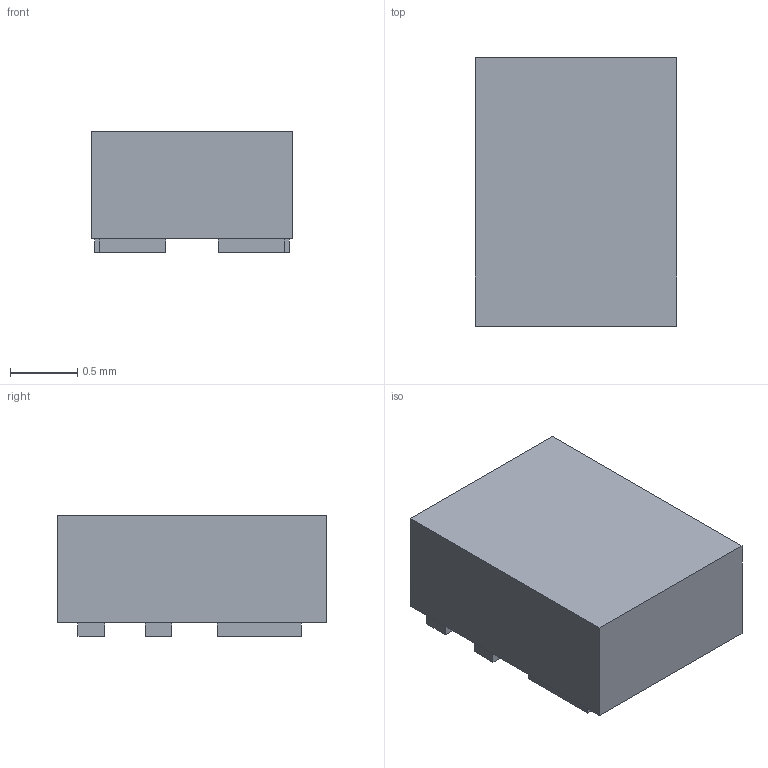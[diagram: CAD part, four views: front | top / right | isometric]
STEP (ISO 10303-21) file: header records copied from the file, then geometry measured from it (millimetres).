
FILE_DESCRIPTION(('FreeCAD Model'),'2;1');
FILE_NAME('/var/www/3D/0T/16437310.3.2.stp','2023-08-03T03:48:33',( 'Author'),(''),'Open CASCADE STEP processor 6.9','FreeCAD','Unknown' );
FILE_SCHEMA(('AUTOMOTIVE_DESIGN { 1 0 10303 214 1 1 1 1 }'));
Length unit declared in the file: millimetre
Products named in the file (3): ASSEMBLY; Body; Pins
Assembly tree (2 placements, depth 2):
  ASSEMBLY
    Body
    Pins
Bounding box: 1.5 x 2 x 0.9 mm (x, y, z)
Volume: 2.5 mm3; surface area: 14.4 mm2
Topology: 7 solids, 7 shells, 42 faces, 84 edges, 56 vertices
Faces by surface type: plane 42
Entity records: 2261 total; most frequent: CARTESIAN_POINT 353, DIRECTION 342, LINE 252, VECTOR 252, ORIENTED_EDGE 168, PCURVE 168, DEFINITIONAL_REPRESENTATION 168, EDGE_CURVE 84
